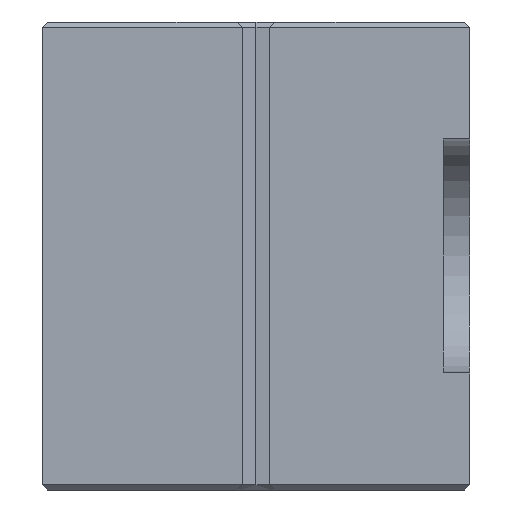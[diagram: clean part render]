
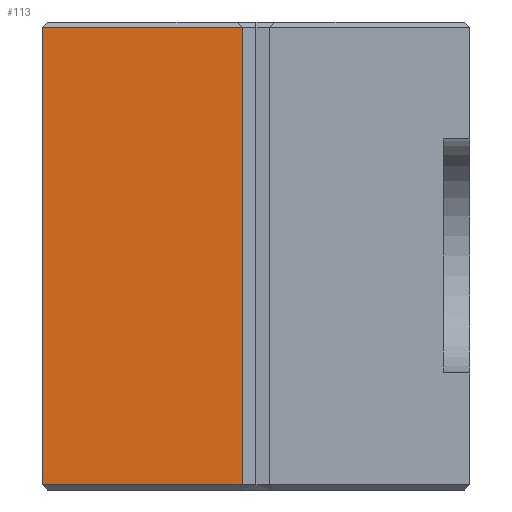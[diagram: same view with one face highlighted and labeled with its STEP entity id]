
A CAD part, left-side view. The second image highlights one B-rep face of the part: STEP entity #113.
In plain terms, the highlighted planar face has unit normal (-1, 0, 0).
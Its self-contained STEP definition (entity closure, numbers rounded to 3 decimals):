
#100 = ORIENTED_EDGE ( 'NONE', *, *, #104, .T. ) ;
#101 = VERTEX_POINT ( 'NONE', #659 ) ;
#102 = VERTEX_POINT ( 'NONE', #658 ) ;
#103 = ORIENTED_EDGE ( 'NONE', *, *, #106, .T. ) ;
#104 = EDGE_CURVE ( 'NONE', #101, #102, #657, .T. ) ;
#105 = VERTEX_POINT ( 'NONE', #653 ) ;
#106 = EDGE_CURVE ( 'NONE', #105, #101, #652, .T. ) ;
#108 = VERTEX_POINT ( 'NONE', #648 ) ;
#109 = EDGE_LOOP ( 'NONE', ( #100, #117, #110, #103 ) ) ;
#110 = ORIENTED_EDGE ( 'NONE', *, *, #116, .T. ) ;
#113 = ADVANCED_FACE ( 'NONE', ( #707 ), #706, .F. ) ;
#116 = EDGE_CURVE ( 'NONE', #108, #105, #698, .T. ) ;
#117 = ORIENTED_EDGE ( 'NONE', *, *, #118, .T. ) ;
#118 = EDGE_CURVE ( 'NONE', #102, #108, #691, .T. ) ;
#648 = CARTESIAN_POINT ( 'NONE',  ( 0., 17., -17.1 ) ) ;
#649 = DIRECTION ( 'NONE',  ( 0., 1., 0. ) ) ;
#650 = VECTOR ( 'NONE', #649, 1000. ) ;
#651 = CARTESIAN_POINT ( 'NONE',  ( 0., 0., 17.1 ) ) ;
#652 = LINE ( 'NONE', #651, #650 ) ;
#653 = CARTESIAN_POINT ( 'NONE',  ( 0., 17., 17.1 ) ) ;
#654 = DIRECTION ( 'NONE',  ( 0., 0., -1. ) ) ;
#655 = VECTOR ( 'NONE', #654, 1000. ) ;
#656 = CARTESIAN_POINT ( 'NONE',  ( 0., 32., 17.5 ) ) ;
#657 = LINE ( 'NONE', #656, #655 ) ;
#658 = CARTESIAN_POINT ( 'NONE',  ( 0., 32., -17.1 ) ) ;
#659 = CARTESIAN_POINT ( 'NONE',  ( 0., 32., 17.1 ) ) ;
#688 = DIRECTION ( 'NONE',  ( 0., -1., 0. ) ) ;
#689 = VECTOR ( 'NONE', #688, 1000. ) ;
#690 = CARTESIAN_POINT ( 'NONE',  ( 0., 17., -17.1 ) ) ;
#691 = LINE ( 'NONE', #690, #689 ) ;
#692 = DIRECTION ( 'NONE',  ( 0., 0., 1. ) ) ;
#693 = VECTOR ( 'NONE', #692, 1000. ) ;
#694 = CARTESIAN_POINT ( 'NONE',  ( 0., 17., -17.5 ) ) ;
#698 = LINE ( 'NONE', #694, #693 ) ;
#701 = DIRECTION ( 'NONE',  ( 0., 0., -1. ) ) ;
#702 = DIRECTION ( 'NONE',  ( 1., 0., 0. ) ) ;
#703 = CARTESIAN_POINT ( 'NONE',  ( 0., 0., 17.5 ) ) ;
#705 = AXIS2_PLACEMENT_3D ( 'NONE', #703, #702, #701 ) ;
#706 = PLANE ( 'NONE',  #705 ) ;
#707 = FACE_OUTER_BOUND ( 'NONE', #109, .T. ) ;
